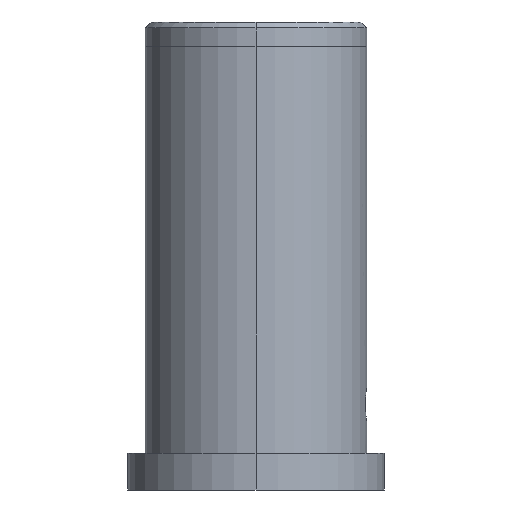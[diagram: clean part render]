
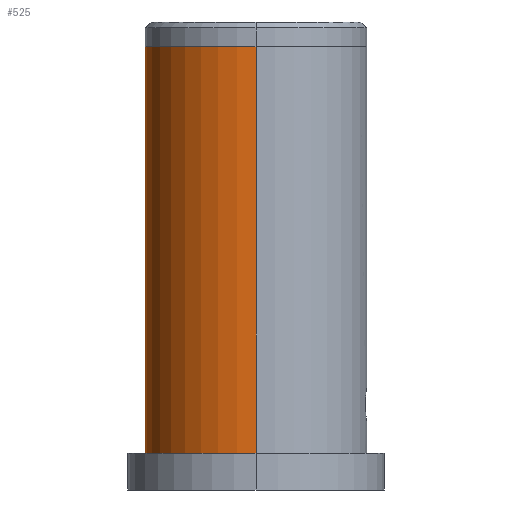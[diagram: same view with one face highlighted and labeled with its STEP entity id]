
A CAD part, left-side view. The second image highlights one B-rep face of the part: STEP entity #525.
In plain terms, the highlighted cylindrical face has radius 14.294 mm (diameter 28.588 mm), a partial arc.
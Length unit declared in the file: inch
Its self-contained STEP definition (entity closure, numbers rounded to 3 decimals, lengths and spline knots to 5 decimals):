
#8 = LINE ( 'NONE', #823, #477 ) ;
#29 = CARTESIAN_POINT ( 'NONE',  ( 0., 0., 2.25 ) ) ;
#38 = AXIS2_PLACEMENT_3D ( 'NONE', #107, #237, #49 ) ;
#49 = DIRECTION ( 'NONE',  ( -1., 0., 0. ) ) ;
#94 = EDGE_CURVE ( 'NONE', #590, #164, #722, .T. ) ;
#107 = CARTESIAN_POINT ( 'NONE',  ( 0., 0., 0.187 ) ) ;
#164 = VERTEX_POINT ( 'NONE', #365 ) ;
#172 = EDGE_CURVE ( 'NONE', #590, #264, #8, .T. ) ;
#176 = CARTESIAN_POINT ( 'NONE',  ( 0.56275, 0., 0.187 ) ) ;
#180 = AXIS2_PLACEMENT_3D ( 'NONE', #252, #583, #332 ) ;
#235 = DIRECTION ( 'NONE',  ( 0., 0., -1. ) ) ;
#237 = DIRECTION ( 'NONE',  ( 0., 0., -1. ) ) ;
#243 = EDGE_LOOP ( 'NONE', ( #350, #841, #569, #593 ) ) ;
#252 = CARTESIAN_POINT ( 'NONE',  ( 0., 0., 0. ) ) ;
#264 = VERTEX_POINT ( 'NONE', #748 ) ;
#267 = VERTEX_POINT ( 'NONE', #176 ) ;
#332 = DIRECTION ( 'NONE',  ( -1., 0., 0. ) ) ;
#344 = DIRECTION ( 'NONE',  ( -1., 0., 0. ) ) ;
#350 = ORIENTED_EDGE ( 'NONE', *, *, #94, .T. ) ;
#365 = CARTESIAN_POINT ( 'NONE',  ( 0.56275, 0., 2.25 ) ) ;
#474 = LINE ( 'NONE', #490, #718 ) ;
#477 = VECTOR ( 'NONE', #235, 39.37008 ) ;
#481 = DIRECTION ( 'NONE',  ( 0., 0., -1. ) ) ;
#490 = CARTESIAN_POINT ( 'NONE',  ( 0.56275, 0., 0. ) ) ;
#525 = ADVANCED_FACE ( 'NONE', ( #666 ), #568, .T. ) ;
#557 = CIRCLE ( 'NONE', #38, 0.56275 ) ;
#568 = CYLINDRICAL_SURFACE ( 'NONE', #180, 0.56275 ) ;
#569 = ORIENTED_EDGE ( 'NONE', *, *, #716, .F. ) ;
#583 = DIRECTION ( 'NONE',  ( 0., 0., -1. ) ) ;
#590 = VERTEX_POINT ( 'NONE', #848 ) ;
#593 = ORIENTED_EDGE ( 'NONE', *, *, #172, .F. ) ;
#666 = FACE_OUTER_BOUND ( 'NONE', #243, .T. ) ;
#713 = AXIS2_PLACEMENT_3D ( 'NONE', #29, #481, #344 ) ;
#716 = EDGE_CURVE ( 'NONE', #264, #267, #557, .T. ) ;
#718 = VECTOR ( 'NONE', #763, 39.37008 ) ;
#722 = CIRCLE ( 'NONE', #713, 0.56275 ) ;
#738 = EDGE_CURVE ( 'NONE', #164, #267, #474, .T. ) ;
#748 = CARTESIAN_POINT ( 'NONE',  ( -0.56275, 0., 0.187 ) ) ;
#763 = DIRECTION ( 'NONE',  ( 0., 0., -1. ) ) ;
#823 = CARTESIAN_POINT ( 'NONE',  ( -0.56275, 0., 0. ) ) ;
#841 = ORIENTED_EDGE ( 'NONE', *, *, #738, .T. ) ;
#848 = CARTESIAN_POINT ( 'NONE',  ( -0.56275, 0., 2.25 ) ) ;
